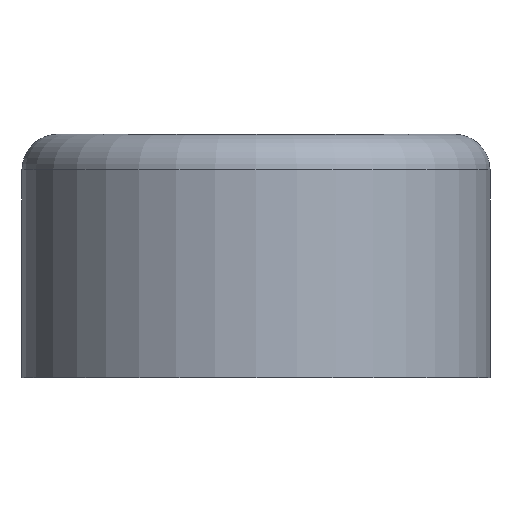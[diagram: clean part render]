
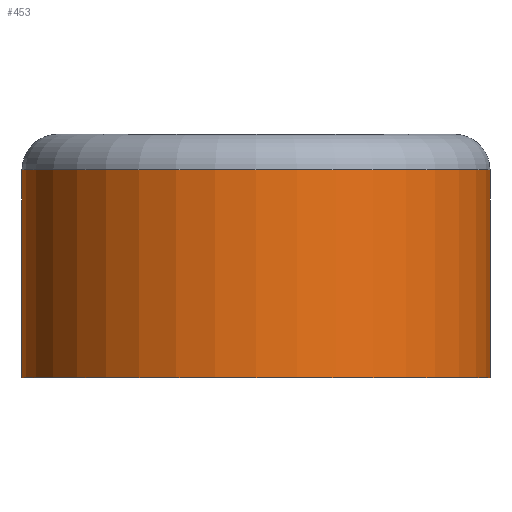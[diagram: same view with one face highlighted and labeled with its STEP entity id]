
A CAD part, front view. The second image highlights one B-rep face of the part: STEP entity #453.
In plain terms, the highlighted cylindrical face has radius 25 mm (diameter 50 mm), a partial arc.
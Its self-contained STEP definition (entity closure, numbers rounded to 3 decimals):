
#1 = CARTESIAN_POINT ( 'NONE',  ( 25., 0., 22.2 ) ) ;
#14 = LINE ( 'NONE', #332, #41 ) ;
#26 = CARTESIAN_POINT ( 'NONE',  ( 0., 0., 26. ) ) ;
#34 = ORIENTED_EDGE ( 'NONE', *, *, #199, .T. ) ;
#41 = VECTOR ( 'NONE', #360, 1000. ) ;
#67 = DIRECTION ( 'NONE',  ( 0., 0., -1. ) ) ;
#94 = CARTESIAN_POINT ( 'NONE',  ( -25., 0., 22.2 ) ) ;
#101 = VERTEX_POINT ( 'NONE', #187 ) ;
#106 = DIRECTION ( 'NONE',  ( -1., 0., 0. ) ) ;
#113 = VERTEX_POINT ( 'NONE', #1 ) ;
#120 = DIRECTION ( 'NONE',  ( 1., 0., 0. ) ) ;
#132 = VECTOR ( 'NONE', #184, 1000. ) ;
#137 = ORIENTED_EDGE ( 'NONE', *, *, #361, .T. ) ;
#178 = LINE ( 'NONE', #490, #132 ) ;
#184 = DIRECTION ( 'NONE',  ( 0., 0., -1. ) ) ;
#187 = CARTESIAN_POINT ( 'NONE',  ( 25., 0., 0. ) ) ;
#199 = EDGE_CURVE ( 'NONE', #321, #101, #413, .T. ) ;
#214 = FACE_OUTER_BOUND ( 'NONE', #425, .T. ) ;
#232 = DIRECTION ( 'NONE',  ( 0., 0., 1. ) ) ;
#244 = AXIS2_PLACEMENT_3D ( 'NONE', #255, #415, #372 ) ;
#255 = CARTESIAN_POINT ( 'NONE',  ( 0., 0., 22.2 ) ) ;
#272 = CARTESIAN_POINT ( 'NONE',  ( 0., 0., 0. ) ) ;
#305 = CIRCLE ( 'NONE', #244, 25. ) ;
#312 = EDGE_CURVE ( 'NONE', #113, #101, #14, .T. ) ;
#313 = ORIENTED_EDGE ( 'NONE', *, *, #312, .F. ) ;
#321 = VERTEX_POINT ( 'NONE', #368 ) ;
#332 = CARTESIAN_POINT ( 'NONE',  ( 25., 0., 26. ) ) ;
#350 = AXIS2_PLACEMENT_3D ( 'NONE', #26, #67, #106 ) ;
#356 = ORIENTED_EDGE ( 'NONE', *, *, #410, .T. ) ;
#360 = DIRECTION ( 'NONE',  ( 0., 0., -1. ) ) ;
#361 = EDGE_CURVE ( 'NONE', #483, #321, #178, .T. ) ;
#368 = CARTESIAN_POINT ( 'NONE',  ( -25., 0., 0. ) ) ;
#372 = DIRECTION ( 'NONE',  ( 1., 0., 0. ) ) ;
#375 = CYLINDRICAL_SURFACE ( 'NONE', #350, 25. ) ;
#410 = EDGE_CURVE ( 'NONE', #113, #483, #305, .T. ) ;
#413 = CIRCLE ( 'NONE', #468, 25. ) ;
#415 = DIRECTION ( 'NONE',  ( 0., 0., -1. ) ) ;
#425 = EDGE_LOOP ( 'NONE', ( #313, #356, #137, #34 ) ) ;
#453 = ADVANCED_FACE ( 'NONE', ( #214 ), #375, .T. ) ;
#468 = AXIS2_PLACEMENT_3D ( 'NONE', #272, #232, #120 ) ;
#483 = VERTEX_POINT ( 'NONE', #94 ) ;
#490 = CARTESIAN_POINT ( 'NONE',  ( -25., 0., 26. ) ) ;
